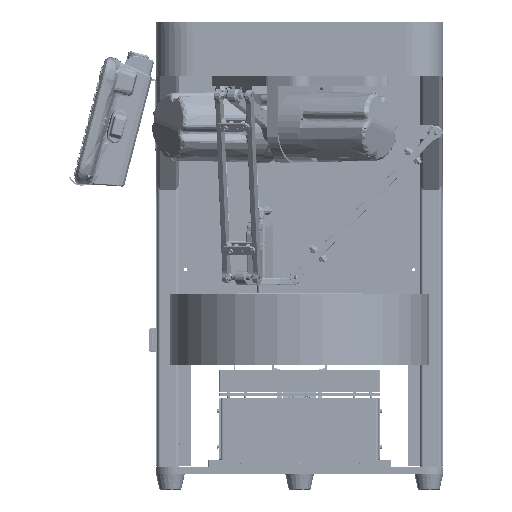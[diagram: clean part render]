
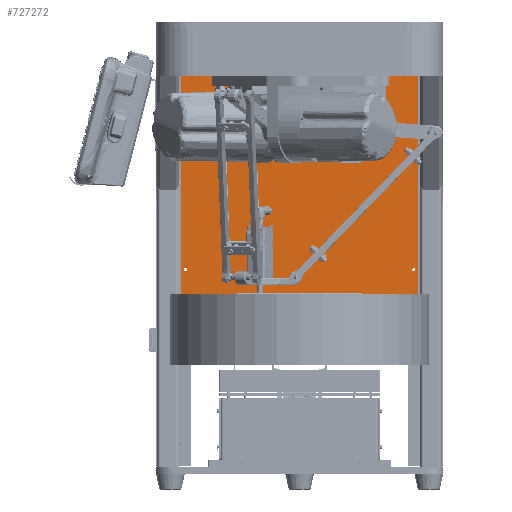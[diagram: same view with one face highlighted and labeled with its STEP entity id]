
A CAD part, front view. The second image highlights one B-rep face of the part: STEP entity #727272.
In plain terms, the highlighted planar face has unit normal (0, -1, 0).
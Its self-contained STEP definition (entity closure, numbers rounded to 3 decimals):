
#12118 = CARTESIAN_POINT ( 'NONE',  ( -153.607, 13.365, 1200. ) ) ;
#28072 = VECTOR ( 'NONE', #623692, 1000. ) ;
#30744 = VECTOR ( 'NONE', #666404, 1000. ) ;
#39761 = FACE_OUTER_BOUND ( 'NONE', #761061, .T. ) ;
#48450 = DIRECTION ( 'NONE',  ( 0., 0., -1. ) ) ;
#48974 = EDGE_LOOP ( 'NONE', ( #396006, #608011 ) ) ;
#65425 = VECTOR ( 'NONE', #48450, 1000. ) ;
#71619 = EDGE_CURVE ( 'NONE', #227714, #677027, #746340, .T. ) ;
#72818 = CARTESIAN_POINT ( 'NONE',  ( 164.393, 13.365, 1200. ) ) ;
#73792 = PLANE ( 'NONE',  #150239 ) ;
#74262 = DIRECTION ( 'NONE',  ( 0., 1., 0. ) ) ;
#75473 = DIRECTION ( 'NONE',  ( 1., 0., 0. ) ) ;
#95372 = CARTESIAN_POINT ( 'NONE',  ( -159.607, 13.365, 1235. ) ) ;
#103219 = VERTEX_POINT ( 'NONE', #204172 ) ;
#105155 = DIRECTION ( 'NONE',  ( 0., 1., 0. ) ) ;
#106131 = CIRCLE ( 'NONE', #778554, 2.5 ) ;
#106656 = CARTESIAN_POINT ( 'NONE',  ( 164.393, 13.365, 900. ) ) ;
#109697 = CARTESIAN_POINT ( 'NONE',  ( -159.607, 13.365, 1235. ) ) ;
#112919 = AXIS2_PLACEMENT_3D ( 'NONE', #353758, #105155, #407886 ) ;
#117975 = CARTESIAN_POINT ( 'NONE',  ( 164.393, 13.365, 900. ) ) ;
#127200 = CARTESIAN_POINT ( 'NONE',  ( -159.607, 13.365, 865. ) ) ;
#128505 = CIRCLE ( 'NONE', #112919, 2.5 ) ;
#130497 = DIRECTION ( 'NONE',  ( 1., 0., 0. ) ) ;
#130835 = ORIENTED_EDGE ( 'NONE', *, *, #726743, .T. ) ;
#138654 = CARTESIAN_POINT ( 'NONE',  ( 5.393, 13.365, 1050. ) ) ;
#143851 = CARTESIAN_POINT ( 'NONE',  ( -151.107, 13.365, 1200. ) ) ;
#147298 = ORIENTED_EDGE ( 'NONE', *, *, #719407, .T. ) ;
#150239 = AXIS2_PLACEMENT_3D ( 'NONE', #138654, #327694, #757297 ) ;
#151779 = ORIENTED_EDGE ( 'NONE', *, *, #422394, .T. ) ;
#164223 = CARTESIAN_POINT ( 'NONE',  ( 170.393, 13.365, 865. ) ) ;
#167602 = CIRCLE ( 'NONE', #218628, 2.5 ) ;
#181561 = VERTEX_POINT ( 'NONE', #695099 ) ;
#188226 = DIRECTION ( 'NONE',  ( 1., 0., 0. ) ) ;
#191838 = EDGE_CURVE ( 'NONE', #497346, #304676, #128505, .T. ) ;
#196743 = CARTESIAN_POINT ( 'NONE',  ( -153.607, 13.365, 900. ) ) ;
#204172 = CARTESIAN_POINT ( 'NONE',  ( 161.893, 13.365, 1200. ) ) ;
#212944 = CARTESIAN_POINT ( 'NONE',  ( -156.107, 13.365, 1200. ) ) ;
#213674 = DIRECTION ( 'NONE',  ( 0., 1., 0. ) ) ;
#216090 = AXIS2_PLACEMENT_3D ( 'NONE', #106656, #360620, #228332 ) ;
#218628 = AXIS2_PLACEMENT_3D ( 'NONE', #343220, #213674, #713410 ) ;
#225994 = ORIENTED_EDGE ( 'NONE', *, *, #531052, .F. ) ;
#227714 = VERTEX_POINT ( 'NONE', #95372 ) ;
#228332 = DIRECTION ( 'NONE',  ( 1., 0., 0. ) ) ;
#245341 = EDGE_CURVE ( 'NONE', #777493, #292121, #106131, .T. ) ;
#245793 = CARTESIAN_POINT ( 'NONE',  ( 170.393, 13.365, 1235. ) ) ;
#254602 = CARTESIAN_POINT ( 'NONE',  ( -159.607, 13.365, 865. ) ) ;
#254789 = VERTEX_POINT ( 'NONE', #727561 ) ;
#259966 = LINE ( 'NONE', #383066, #28072 ) ;
#292121 = VERTEX_POINT ( 'NONE', #143851 ) ;
#300236 = DIRECTION ( 'NONE',  ( 0., 0., 1. ) ) ;
#304676 = VERTEX_POINT ( 'NONE', #755551 ) ;
#316581 = LINE ( 'NONE', #127200, #442157 ) ;
#327694 = DIRECTION ( 'NONE',  ( 0., 1., 0. ) ) ;
#331733 = VERTEX_POINT ( 'NONE', #254602 ) ;
#343220 = CARTESIAN_POINT ( 'NONE',  ( 164.393, 13.365, 1200. ) ) ;
#349841 = CIRCLE ( 'NONE', #744637, 2.5 ) ;
#353758 = CARTESIAN_POINT ( 'NONE',  ( -153.607, 13.365, 900. ) ) ;
#360620 = DIRECTION ( 'NONE',  ( 0., 1., 0. ) ) ;
#378107 = EDGE_CURVE ( 'NONE', #677027, #575739, #790321, .T. ) ;
#383066 = CARTESIAN_POINT ( 'NONE',  ( -159.607, 13.365, 865. ) ) ;
#388120 = AXIS2_PLACEMENT_3D ( 'NONE', #72818, #626808, #75473 ) ;
#396006 = ORIENTED_EDGE ( 'NONE', *, *, #645140, .T. ) ;
#396485 = EDGE_CURVE ( 'NONE', #567037, #254789, #575521, .T. ) ;
#407886 = DIRECTION ( 'NONE',  ( 1., 0., 0. ) ) ;
#414968 = EDGE_LOOP ( 'NONE', ( #147298, #564063 ) ) ;
#416490 = FACE_BOUND ( 'NONE', #471155, .T. ) ;
#416559 = CIRCLE ( 'NONE', #617589, 2.5 ) ;
#422394 = EDGE_CURVE ( 'NONE', #103219, #181561, #167602, .T. ) ;
#442157 = VECTOR ( 'NONE', #300236, 1000. ) ;
#456937 = EDGE_CURVE ( 'NONE', #575739, #331733, #259966, .T. ) ;
#471155 = EDGE_LOOP ( 'NONE', ( #130835, #151779 ) ) ;
#475494 = CIRCLE ( 'NONE', #388120, 2.5 ) ;
#488261 = ORIENTED_EDGE ( 'NONE', *, *, #584206, .T. ) ;
#497346 = VERTEX_POINT ( 'NONE', #741286 ) ;
#528147 = EDGE_LOOP ( 'NONE', ( #719094, #488261 ) ) ;
#531052 = EDGE_CURVE ( 'NONE', #331733, #227714, #316581, .T. ) ;
#532286 = CARTESIAN_POINT ( 'NONE',  ( 170.393, 13.365, 865. ) ) ;
#554661 = CARTESIAN_POINT ( 'NONE',  ( -153.607, 13.365, 1200. ) ) ;
#564063 = ORIENTED_EDGE ( 'NONE', *, *, #245341, .T. ) ;
#564464 = ORIENTED_EDGE ( 'NONE', *, *, #456937, .F. ) ;
#567037 = VERTEX_POINT ( 'NONE', #759250 ) ;
#575521 = CIRCLE ( 'NONE', #216090, 2.5 ) ;
#575739 = VERTEX_POINT ( 'NONE', #164223 ) ;
#584206 = EDGE_CURVE ( 'NONE', #304676, #497346, #349841, .T. ) ;
#589445 = ORIENTED_EDGE ( 'NONE', *, *, #71619, .F. ) ;
#600323 = FACE_BOUND ( 'NONE', #414968, .T. ) ;
#607891 = AXIS2_PLACEMENT_3D ( 'NONE', #117975, #679898, #188226 ) ;
#608011 = ORIENTED_EDGE ( 'NONE', *, *, #396485, .T. ) ;
#616914 = DIRECTION ( 'NONE',  ( 0., 1., 0. ) ) ;
#617589 = AXIS2_PLACEMENT_3D ( 'NONE', #12118, #74262, #628272 ) ;
#623692 = DIRECTION ( 'NONE',  ( -1., 0., 0. ) ) ;
#626808 = DIRECTION ( 'NONE',  ( 0., 1., 0. ) ) ;
#628272 = DIRECTION ( 'NONE',  ( 1., 0., 0. ) ) ;
#628980 = DIRECTION ( 'NONE',  ( 0., 1., 0. ) ) ;
#639195 = FACE_BOUND ( 'NONE', #528147, .T. ) ;
#641626 = ORIENTED_EDGE ( 'NONE', *, *, #378107, .F. ) ;
#645140 = EDGE_CURVE ( 'NONE', #254789, #567037, #717032, .T. ) ;
#666404 = DIRECTION ( 'NONE',  ( 1., 0., 0. ) ) ;
#677027 = VERTEX_POINT ( 'NONE', #245793 ) ;
#679898 = DIRECTION ( 'NONE',  ( 0., 1., 0. ) ) ;
#691101 = DIRECTION ( 'NONE',  ( 1., 0., 0. ) ) ;
#695099 = CARTESIAN_POINT ( 'NONE',  ( 166.893, 13.365, 1200. ) ) ;
#697313 = FACE_BOUND ( 'NONE', #48974, .T. ) ;
#713410 = DIRECTION ( 'NONE',  ( 1., 0., 0. ) ) ;
#717032 = CIRCLE ( 'NONE', #607891, 2.5 ) ;
#719094 = ORIENTED_EDGE ( 'NONE', *, *, #191838, .T. ) ;
#719407 = EDGE_CURVE ( 'NONE', #292121, #777493, #416559, .T. ) ;
#726743 = EDGE_CURVE ( 'NONE', #181561, #103219, #475494, .T. ) ;
#727272 = ADVANCED_FACE ( 'NONE', ( #639195, #697313, #416490, #600323, #39761 ), #73792, .F. ) ;
#727561 = CARTESIAN_POINT ( 'NONE',  ( 166.893, 13.365, 900. ) ) ;
#741286 = CARTESIAN_POINT ( 'NONE',  ( -151.107, 13.365, 900. ) ) ;
#744637 = AXIS2_PLACEMENT_3D ( 'NONE', #196743, #628980, #691101 ) ;
#746340 = LINE ( 'NONE', #109697, #30744 ) ;
#755551 = CARTESIAN_POINT ( 'NONE',  ( -156.107, 13.365, 900. ) ) ;
#757297 = DIRECTION ( 'NONE',  ( 1., 0., 0. ) ) ;
#759250 = CARTESIAN_POINT ( 'NONE',  ( 161.893, 13.365, 900. ) ) ;
#761061 = EDGE_LOOP ( 'NONE', ( #641626, #589445, #225994, #564464 ) ) ;
#777493 = VERTEX_POINT ( 'NONE', #212944 ) ;
#778554 = AXIS2_PLACEMENT_3D ( 'NONE', #554661, #616914, #130497 ) ;
#790321 = LINE ( 'NONE', #532286, #65425 ) ;
